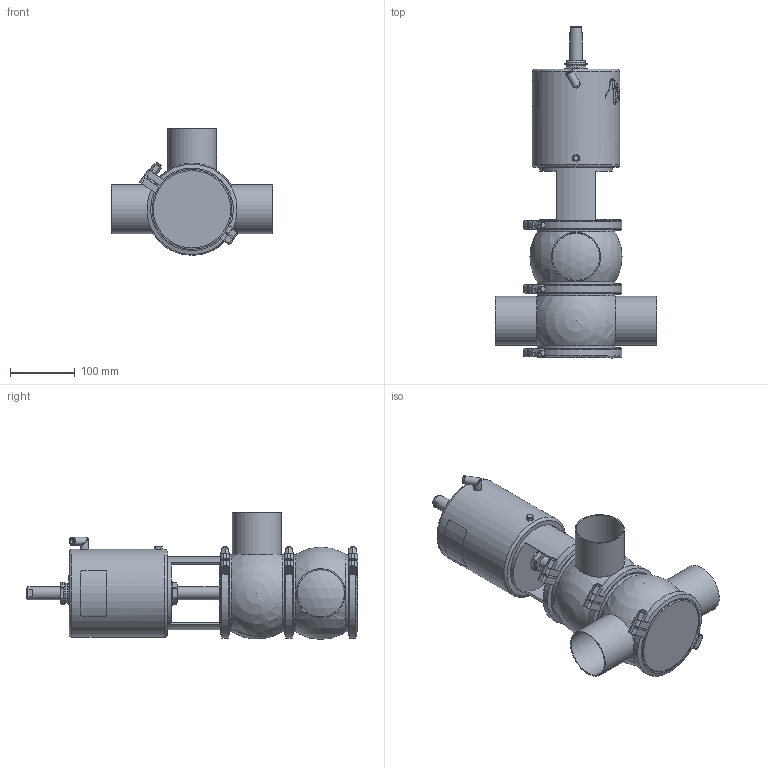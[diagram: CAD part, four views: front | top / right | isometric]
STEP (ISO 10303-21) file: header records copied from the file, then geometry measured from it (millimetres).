
FILE_DESCRIPTION (( 'STEP AP214' ), '1' );
FILE_NAME ('INNOVA M B W OD 3 T3 AS NC_10.241.16.0004.STEP', '2024-08-07T13:08:40', ( '' ), ( '' ), 'SwSTEP 2.0', 'SolidWorks 2023', '' );
FILE_SCHEMA (( 'AUTOMOTIVE_DESIGN' ));
Length unit declared in the file: millimetre
Products named in the file (7): 10.240.15.0014_T3 AS P180; 10.240.15.0007_OD 3"; INNOVA M B W OD 3 T3 AS NC_10.241.16.0004; 10.240.15.0010_DN 080; 10.240.15.0001_DN 080; 10.240.15.0006_OD 3"; 10.241.15.0001_DIN 080
Assembly tree (8 placements, depth 2):
  INNOVA M B W OD 3 T3 AS NC_10.241.16.0004
    10.240.15.0006_OD 3"
    10.240.15.0007_OD 3"
    10.240.15.0010_DN 080
    10.240.15.0014_T3 AS P180
    10.240.15.0001_DN 080  x3
    10.241.15.0001_DIN 080
Bounding box: 250 x 514.63 x 196.5 mm (x, y, z)
Volume: 5509680.9 mm3; surface area: 512749.1 mm2
Topology: 9 solids, 9 shells, 463 faces, 1219 edges, 795 vertices
Faces by surface type: plane 226, cylinder 112, bspline 80, cone 36, sphere 5, torus 4
Full cylindrical faces by diameter (mm): 6.15 x1, 8 x7, 8.5 x1, 10.5 x1, 12.5 x3, 16 x1, 20 x2, 31 x1, 34.5 x2, 36.5 x1, 72.9 x3, 76.2 x3, 113 x1, 120 x5, 132 x6, 136 x1
Entity records: 20735 total; most frequent: CARTESIAN_POINT 11320, ORIENTED_EDGE 1624, DIRECTION 1271, EDGE_CURVE 812, VERTEX_POINT 563, AXIS2_PLACEMENT_3D 491, EDGE_LOOP 431, FACE_OUTER_BOUND 386
